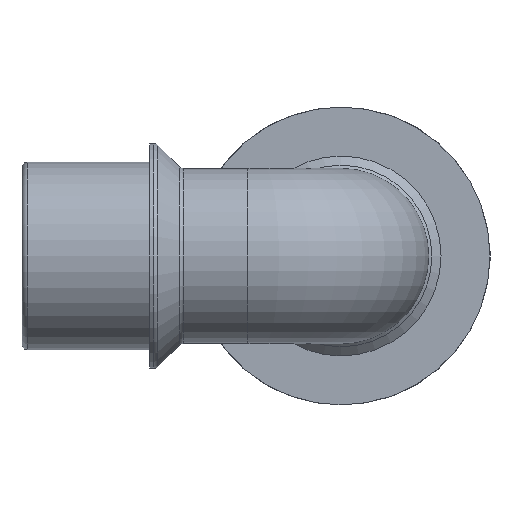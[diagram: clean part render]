
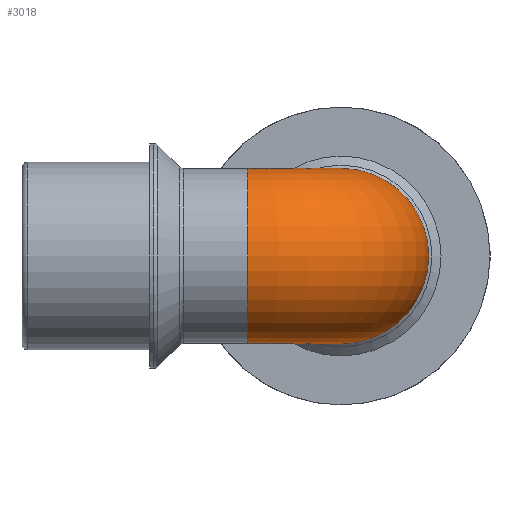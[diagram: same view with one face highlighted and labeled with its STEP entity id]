
A CAD part, left-side view. The second image highlights one B-rep face of the part: STEP entity #3018.
In plain terms, the highlighted toroidal (fillet/blend) face has major radius 13.14 mm and minor radius 12.361 mm.
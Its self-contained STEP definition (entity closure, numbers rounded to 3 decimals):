
#673=FACE_BOUND('',#915,.T.);
#700=FACE_OUTER_BOUND('',#914,.T.);
#914=EDGE_LOOP('',(#2075));
#915=EDGE_LOOP('',(#2076));
#1154=CIRCLE('',#3236,12.361);
#1155=CIRCLE('',#3237,12.361);
#1335=VERTEX_POINT('',#4603);
#1336=VERTEX_POINT('',#4605);
#1612=EDGE_CURVE('',#1335,#1335,#1154,.T.);
#1613=EDGE_CURVE('',#1336,#1336,#1155,.T.);
#2075=ORIENTED_EDGE('',*,*,#1612,.F.);
#2076=ORIENTED_EDGE('',*,*,#1613,.T.);
#3000=TOROIDAL_SURFACE('',#3235,13.14,12.361);
#3018=ADVANCED_FACE('',(#700,#673),#3000,.T.);
#3235=AXIS2_PLACEMENT_3D('',#4602,#3634,#3635);
#3236=AXIS2_PLACEMENT_3D('',#4604,#3636,#3637);
#3237=AXIS2_PLACEMENT_3D('',#4606,#3638,#3639);
#3634=DIRECTION('center_axis',(0.,0.,1.));
#3635=DIRECTION('ref_axis',(1.,0.,0.));
#3636=DIRECTION('center_axis',(1.,0.,0.));
#3637=DIRECTION('ref_axis',(0.,0.,-1.));
#3638=DIRECTION('center_axis',(0.,-1.,0.));
#3639=DIRECTION('ref_axis',(-1.,0.,0.));
#4602=CARTESIAN_POINT('Origin',(13.14,13.14,0.));
#4603=CARTESIAN_POINT('',(13.14,12.361,0.));
#4604=CARTESIAN_POINT('Origin',(13.14,0.,0.));
#4605=CARTESIAN_POINT('',(12.361,13.14,0.));
#4606=CARTESIAN_POINT('Origin',(0.,13.14,0.));
